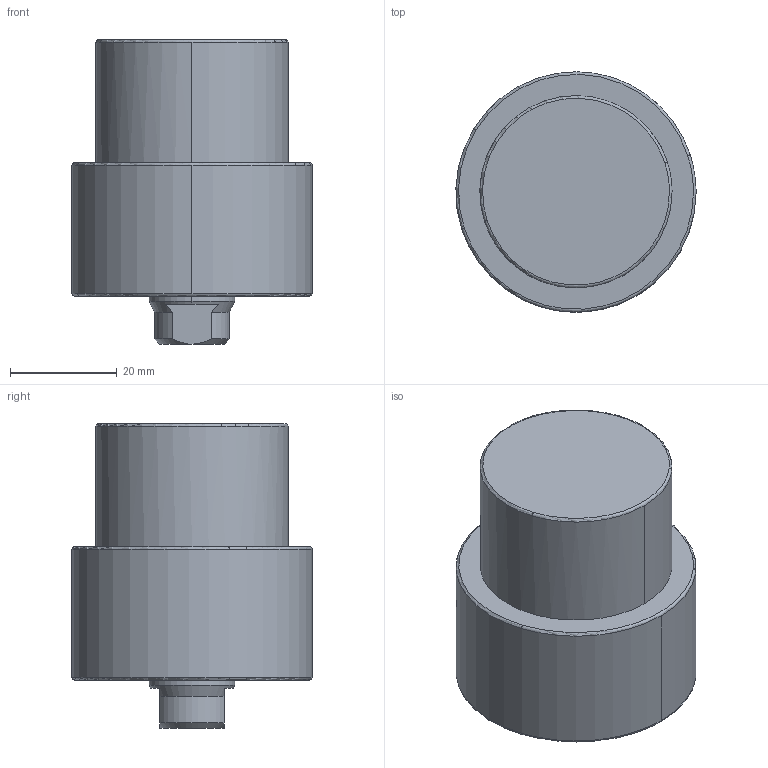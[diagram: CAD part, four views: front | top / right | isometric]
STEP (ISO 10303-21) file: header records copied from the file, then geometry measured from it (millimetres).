
FILE_DESCRIPTION((' '),'2;1');
FILE_NAME( 'TLLU-036GA-(01-014).STEP.stp', '2025-10-24T16:37:03', (' '), ('--- Datakit www.datakit.com---'), ' Datakit CrossCadWare V2024.1 Dec 21 2023', 'Mastercam 2025', ' ');
FILE_SCHEMA(('AUTOMOTIVE_DESIGN { 1 0 10303 214 1 1 1 1 }'));
Length unit declared in the file: millimetre
Products named in the file (1): TLLU-036GA-(01-014)
Bounding box: 44.99 x 45 x 57 mm (x, y, z)
Volume: 63577.9 mm3; surface area: 10433 mm2
Topology: 1 solids, 1 shells, 62 faces, 172 edges, 111 vertices
Faces by surface type: cone 24, cylinder 22, plane 10, torus 6
Entity records: 2034 total; most frequent: DIRECTION 386, CARTESIAN_POINT 380, ORIENTED_EDGE 324, AXIS2_PLACEMENT_3D 169, EDGE_CURVE 162, VERTEX_POINT 111, CIRCLE 106, EDGE_LOOP 71
